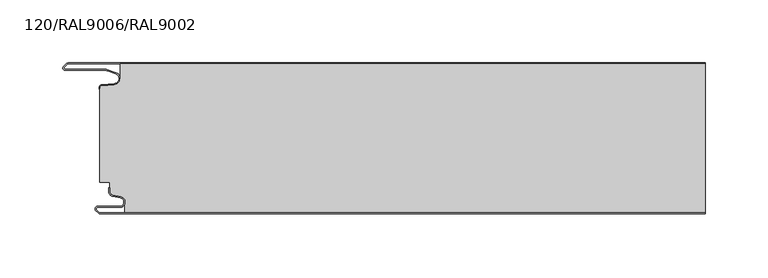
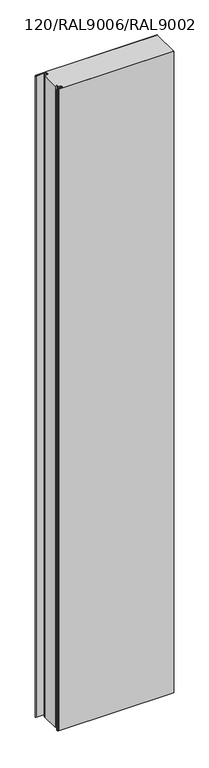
"""IFC4 building model written with IfcOpenShell, lengths in millimetres: plate geometry, TR_C_V_FHL_Panel_cut_GROOVE : 120/RAL9006/RAL9002."""

from ifc_helpers import new_model, si_unit, point, frame_2d, origin, origin_with_axes, place, context, project, spatial, polyline, circle_curve, trimmed, segment, composite_curve, outline, extrude, source, transform, mapped, element, save


def plate_120_ral9006_ral9002_6ff576de(model_context):
    return source(origin(), model_context, "Body", "SweptSolid", [
        extrude(outline(composite_curve([segment(polyline([(-233.2999998, -99.0), (-232.4999998, -99.0), (-232.4999998, -102.3925589)]), True, "CONTINUOUS"), segment(trimmed(circle_curve(frame_2d((-229.5499998, -102.3925589)), 2.95), [point((-232.4999998, -102.3925589))], [point((-230.062262, -105.2977418))], True, "CARTESIAN"), True, "CONTINUOUS"), segment(polyline([(-230.062262, -105.2977418), (-224.0119951, -106.364567)]), True, "CONTINUOUS"), segment(trimmed(circle_curve(frame_2d((-224.7499998, -110.55)), 4.25), [point((-224.0119951, -106.364567))], [point((-224.7499998, -114.8))], False, "CARTESIAN"), True, "CONTINUOUS"), segment(polyline([(-224.7499998, -114.8), (-242.3499998, -114.8)]), True, "CONTINUOUS"), segment(trimmed(circle_curve(frame_2d((-242.3499998, -115.95)), 1.15), [point((-242.3499998, -114.8))], [point((-243.1631726, -116.7631728))], True, "CARTESIAN"), True, "CONTINUOUS"), segment(polyline([(-243.1631726, -116.7631728), (-241.2974872, -118.6288582)]), True, "CONTINUOUS"), segment(trimmed(circle_curve(frame_2d((-239.918629, -117.25)), 1.95), [point((-241.2974872, -118.6288582))], [point((-239.918629, -119.2))], True, "CARTESIAN"), True, "CONTINUOUS"), segment(polyline([(-239.918629, -119.2), (240.3999998, -119.2), (240.3999998, -120.0), (-239.918629, -120.0)]), True, "CONTINUOUS"), segment(trimmed(circle_curve(frame_2d((-239.918629, -117.25)), 2.75), [point((-239.918629, -120.0))], [point((-241.8631726, -119.1945436))], False, "CARTESIAN"), True, "CONTINUOUS"), segment(polyline([(-241.8631726, -119.1945436), (-243.7288581, -117.3288582)]), True, "CONTINUOUS"), segment(trimmed(circle_curve(frame_2d((-242.3499998, -115.95)), 1.95), [point((-243.7288581, -117.3288582))], [point((-242.3499998, -114.0))], False, "CARTESIAN"), True, "CONTINUOUS"), segment(polyline([(-242.3499998, -114.0), (-224.7499998, -114.0)]), True, "CONTINUOUS"), segment(trimmed(circle_curve(frame_2d((-224.7499998, -110.55)), 3.45), [point((-224.7499998, -114.0))], [point((-224.1509136, -107.1524133))], True, "CARTESIAN"), True, "CONTINUOUS"), segment(polyline([(-224.1509136, -107.1524133), (-230.2011805, -106.085588)]), True, "CONTINUOUS"), segment(trimmed(circle_curve(frame_2d((-229.5499998, -102.3925589)), 3.75), [point((-230.2011805, -106.085588))], [point((-233.2999998, -102.3925589))], False, "CARTESIAN"), True, "CONTINUOUS"), segment(polyline([(-233.2999998, -102.3925589), (-233.2999998, -99.0)]), True, "CONTINUOUS")], self_intersect=False)), origin_with_axes(), (0.0, 0.0, 1.0), 2830.0),
        extrude(outline(composite_curve([segment(polyline([(-220.4999998, -119.2), (-220.4999998, -110.55)]), True, "CONTINUOUS"), segment(trimmed(circle_curve(frame_2d((-224.7499998, -110.55)), 4.25), [point((-220.4999998, -110.55))], [point((-224.0119951, -106.364567))], True, "CARTESIAN"), True, "CONTINUOUS"), segment(polyline([(-224.0119951, -106.364567), (-230.062262, -105.2977418)]), True, "CONTINUOUS"), segment(trimmed(circle_curve(frame_2d((-229.5499998, -102.3925589)), 2.95), [point((-230.062262, -105.2977418))], [point((-232.4999998, -102.3925589))], False, "CARTESIAN"), True, "CONTINUOUS"), segment(polyline([(-232.4999998, -102.3925589), (-232.4999998, -94.86), (-240.3999998, -94.86), (-240.3999998, -20.8), (-240.2999998, -19.7908279)]), True, "CONTINUOUS"), segment(trimmed(circle_curve(frame_2d((-238.5999998, -19.7908279)), 1.7), [point((-240.2999998, -19.7908279))], [point((-238.7481646, -18.0972969))], False, "CARTESIAN"), True, "CONTINUOUS"), segment(polyline([(-238.7481646, -18.0972969), (-228.8735883, -17.2333835)]), True, "CONTINUOUS"), segment(trimmed(circle_curve(frame_2d((-229.3006514, -12.3520294)), 4.9), [point((-228.8735883, -17.2333835))], [point((-224.4006514, -12.3520294))], True, "CARTESIAN"), True, "CONTINUOUS"), segment(polyline([(-224.4006514, -12.3520294), (-224.4006514, -0.8), (240.3999998, -0.8), (240.3999998, -119.2), (-220.4999998, -119.2)]), True, "CONTINUOUS")], self_intersect=False)), origin_with_axes(), (0.0, 0.0, 1.0), 2830.0),
        extrude(outline(composite_curve([segment(trimmed(circle_curve(frame_2d((-265.5006168, -2.7)), 2.7), [point((-267.4752718, -0.8586044))], [point((-265.5006168, 0.0))], False, "CARTESIAN"), True, "CONTINUOUS"), segment(polyline([(-265.5006168, 0.0), (240.3999998, 0.0), (240.3999998, -0.8), (-265.5006168, -0.8)]), True, "CONTINUOUS"), segment(trimmed(circle_curve(frame_2d((-265.5006168, -2.7)), 1.9), [point((-265.5006168, -0.8))], [point((-266.8901888, -1.4042031))], True, "CARTESIAN"), True, "CONTINUOUS"), segment(polyline([(-266.8901888, -1.4042031), (-268.7044889, -3.3498018)]), True, "CONTINUOUS"), segment(trimmed(circle_curve(frame_2d((-267.8999998, -4.1)), 1.1), [point((-268.7044889, -3.3498018))], [point((-267.8999998, -5.2))], True, "CARTESIAN"), True, "CONTINUOUS"), segment(polyline([(-267.8999998, -5.2), (-235.5732716, -5.2)]), True, "CONTINUOUS"), segment(trimmed(circle_curve(frame_2d((-235.5732716, -8.5)), 3.3), [point((-235.5732716, -5.2))], [point((-234.4988967, -5.3797887))], False, "CARTESIAN"), True, "CONTINUOUS"), segment(polyline([(-234.4988967, -5.3797887), (-227.7053674, -7.7189884)]), True, "CONTINUOUS"), segment(trimmed(circle_curve(frame_2d((-229.3006514, -12.3520294)), 4.9), [point((-227.7053674, -7.7189884))], [point((-228.8735883, -17.2333835))], False, "CARTESIAN"), True, "CONTINUOUS"), segment(polyline([(-228.8735883, -17.2333835), (-238.7481646, -18.0972969)]), True, "CONTINUOUS"), segment(trimmed(circle_curve(frame_2d((-238.5999998, -19.7908279)), 1.7), [point((-238.7481646, -18.0972969))], [point((-240.2999998, -19.7908279))], True, "CARTESIAN"), True, "CONTINUOUS"), segment(polyline([(-240.2999998, -19.7908279), (-240.2999998, -20.8), (-241.0999998, -20.8), (-241.0999998, -19.7908279)]), True, "CONTINUOUS"), segment(trimmed(circle_curve(frame_2d((-238.5999998, -19.7908279)), 2.5), [point((-241.0999998, -19.7908279))], [point((-238.8178892, -17.3003412))], False, "CARTESIAN"), True, "CONTINUOUS"), segment(polyline([(-238.8178892, -17.3003412), (-228.9433129, -16.4364277)]), True, "CONTINUOUS"), segment(trimmed(circle_curve(frame_2d((-229.3006514, -12.3520294)), 4.1), [point((-228.9433129, -16.4364277))], [point((-227.965822, -8.4754033))], True, "CARTESIAN"), True, "CONTINUOUS"), segment(polyline([(-227.965822, -8.4754033), (-234.7593512, -6.1362036)]), True, "CONTINUOUS"), segment(trimmed(circle_curve(frame_2d((-235.5732716, -8.5)), 2.5), [point((-234.7593512, -6.1362036))], [point((-235.5732716, -6.0))], True, "CARTESIAN"), True, "CONTINUOUS"), segment(polyline([(-235.5732716, -6.0), (-267.8999998, -6.0)]), True, "CONTINUOUS"), segment(trimmed(circle_curve(frame_2d((-267.8999998, -4.1)), 1.9), [point((-267.8999998, -6.0))], [point((-269.2895719, -2.8042031))], False, "CARTESIAN"), True, "CONTINUOUS"), segment(polyline([(-269.2895719, -2.8042031), (-267.4752718, -0.8586044)]), True, "CONTINUOUS")], self_intersect=False)), origin_with_axes(), (0.0, 0.0, 1.0), 2830.0),
    ])


if __name__ == "__main__":
    model = new_model("IFC4")
    model_context = context("Model", 3, world=origin())
    ifc_project = project(units=[si_unit("LENGTHUNIT", "METRE", prefix="MILLI")], contexts=[model_context])
    site = spatial("IfcSite", under=ifc_project)
    building = spatial("IfcBuilding", under=site)
    placement = place(None, origin())
    plate_120_ral9006_ral9002_shape = plate_120_ral9006_ral9002_6ff576de(model_context)
    element("IfcPlate", 1, ObjectType="TR_C_V_FHL_Panel_cut_GROOVE : 120/RAL9006/RAL9002", at=placement, inside=building, context=model_context, shape_type="MappedRepresentation", body=[
        mapped(plate_120_ral9006_ral9002_shape, transform((0.0, 0.0, 0.0), x_axis=(1.0, 0.0, 0.0), y_axis=(0.0, 1.0, 0.0), z_axis=(0.0, 0.0, 1.0))),
    ])
    save(model, "model.ifc")
